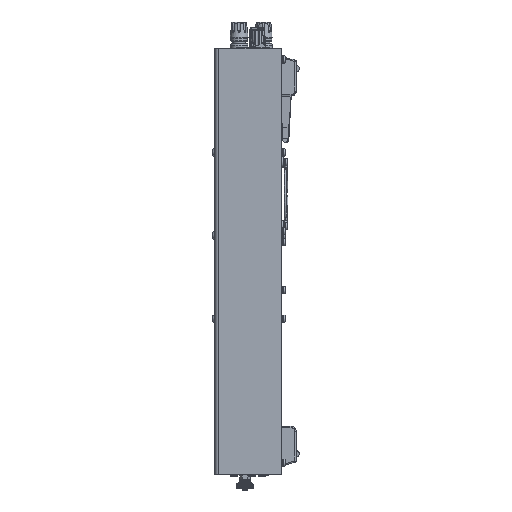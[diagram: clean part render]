
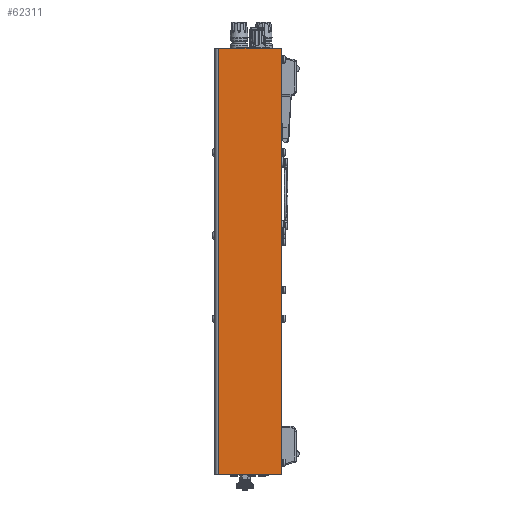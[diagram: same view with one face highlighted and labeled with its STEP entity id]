
A CAD part, left-side view. The second image highlights one B-rep face of the part: STEP entity #62311.
In plain terms, the highlighted planar face has unit normal (-1, 0, 0).
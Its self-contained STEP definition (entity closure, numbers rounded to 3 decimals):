
#6538=LINE('',#114090,#11043);
#6541=LINE('',#114100,#11046);
#6543=LINE('',#114103,#11048);
#6544=LINE('',#114104,#11049);
#11043=VECTOR('',#81908,10.);
#11046=VECTOR('',#81917,10.);
#11048=VECTOR('',#81921,1.88);
#11049=VECTOR('',#81922,10.);
#13206=PLANE('',#67620);
#17562=FACE_OUTER_BOUND('',#21405,.T.);
#21405=EDGE_LOOP('',(#53940,#53941,#53942,#53943));
#29315=VERTEX_POINT('',#114088);
#29316=VERTEX_POINT('',#114089);
#29319=VERTEX_POINT('',#114097);
#29320=VERTEX_POINT('',#114099);
#37624=EDGE_CURVE('',#29315,#29316,#6538,.T.);
#37629=EDGE_CURVE('',#29319,#29320,#6541,.T.);
#37631=EDGE_CURVE('',#29320,#29316,#6543,.T.);
#37632=EDGE_CURVE('',#29315,#29319,#6544,.T.);
#53940=ORIENTED_EDGE('',*,*,#37624,.T.);
#53941=ORIENTED_EDGE('',*,*,#37631,.F.);
#53942=ORIENTED_EDGE('',*,*,#37629,.F.);
#53943=ORIENTED_EDGE('',*,*,#37632,.F.);
#62311=ADVANCED_FACE('',(#17562),#13206,.F.);
#67620=AXIS2_PLACEMENT_3D('',#114102,#81919,#81920);
#81908=DIRECTION('',(0.,0.,-1.));
#81917=DIRECTION('',(0.,0.,-1.));
#81919=DIRECTION('center_axis',(1.,0.,0.));
#81920=DIRECTION('ref_axis',(0.,0.,
1.));
#81921=DIRECTION('',(0.,1.,0.));
#81922=DIRECTION('',(0.,-1.,0.));
#114088=CARTESIAN_POINT('',(-222.,49.,0.));
#114089=CARTESIAN_POINT('',(-222.,49.,-333.));
#114090=CARTESIAN_POINT('',(-222.,49.,-166.5));
#114097=CARTESIAN_POINT('',(-222.,0.,0.));
#114099=CARTESIAN_POINT('',(-222.,0.,-333.));
#114100=CARTESIAN_POINT('',(-222.,0.,0.));
#114102=CARTESIAN_POINT('Origin',(-222.,25.977,-166.5));
#114103=CARTESIAN_POINT('',(-222.,54.906,-333.));
#114104=CARTESIAN_POINT('',(-222.,49.,0.));
